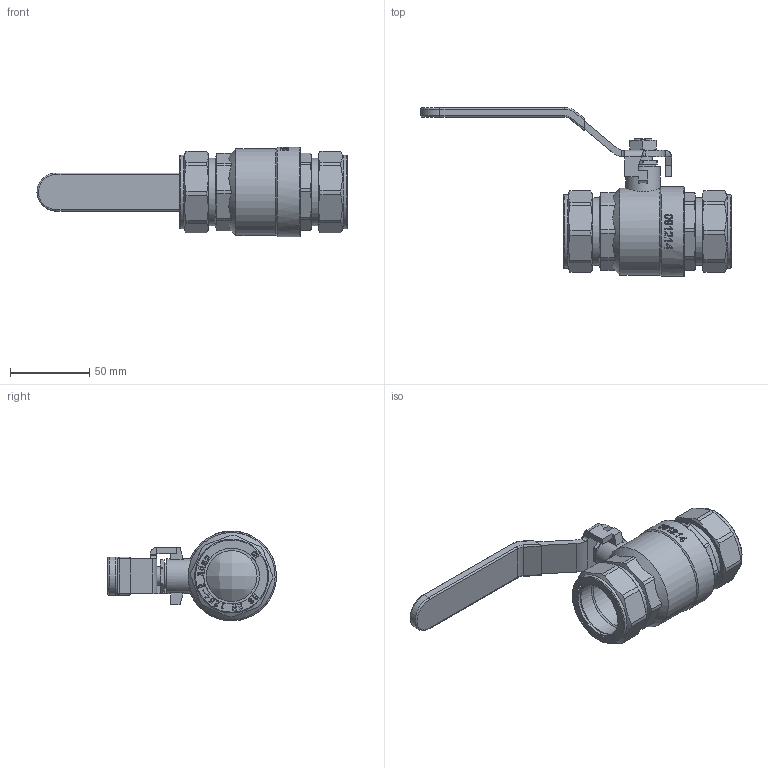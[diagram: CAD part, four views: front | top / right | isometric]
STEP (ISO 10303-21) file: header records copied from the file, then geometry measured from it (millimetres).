
FILE_DESCRIPTION((''),'2;1');
FILE_NAME('P:\Fastrack\53972_CRANE 3D\Fig100YL\100CYL-35mm\100CYL-35mm.stp','2011-01-27T14:13:38',('btaylor'),(''),'Autodesk Inventor 2008','Autodesk Inventor 2008','');
FILE_SCHEMA(('AUTOMOTIVE_DESIGN { 1 0 10303 214 1 1 1 1 }'));
Length unit declared in the file: millimetre
Products named in the file (1): 100CYL-35mm
Bounding box: 195.52 x 106.43 x 56.6 mm (x, y, z)
Volume: 187448.5 mm3; surface area: 80941.3 mm2
Topology: 6 solids, 9 shells, 2098 faces, 5609 edges, 3735 vertices
Faces by surface type: plane 1136, bspline 731, cylinder 137, cone 76, torus 15, sphere 3
Full cylindrical faces by diameter (mm): 12 x1, 12.1 x2, 12.5 x1, 13 x1, 13.5 x1, 16 x1, 16.3 x1, 16.5 x2, 22 x1, 32 x6, 35.1 x2, 35.2 x2, 35.45 x2, 38 x2, 40.7 x2, 41 x2, 42 x4, 42.7 x2, 46.5 x2, 47 x1, 50.5 x1, 52 x1, 52.4 x1, 54.8 x1, 56.5 x1
Entity records: 148974 total; most frequent: CARTESIAN_POINT 100014, ORIENTED_EDGE 10956, DIRECTION 6948, EDGE_CURVE 5478, VERTEX_POINT 3693, VECTOR 3440, LINE 3440, EDGE_LOOP 2423
